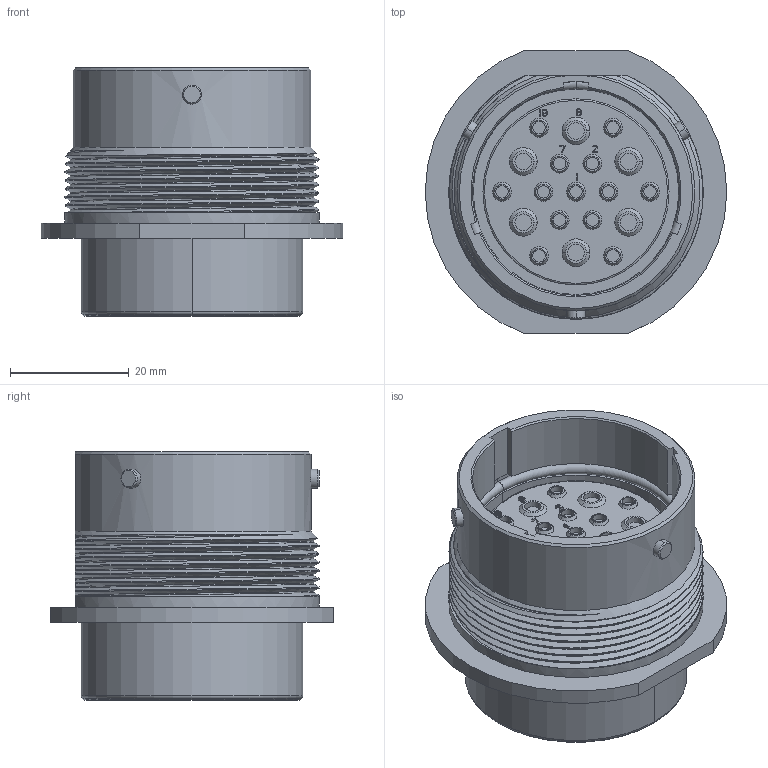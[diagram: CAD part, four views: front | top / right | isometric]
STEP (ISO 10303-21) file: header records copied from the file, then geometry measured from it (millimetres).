
FILE_DESCRIPTION((''),'2;1');
FILE_NAME('C-HD34-24-19PN','2013-03-23T',('workeradm'),('Tyco Electronics Ltd.'),'PRO/ENGINEER BY PARAMETRIC TECHNOLOGY CORPORATION, 2010430','PRO/ENGINEER BY PARAMETRIC TECHNOLOGY CORPORATION, 2010430','');
FILE_SCHEMA(('AUTOMOTIVE_DESIGN { 1 0 10303 214 1 1 1 1 }'));
Length unit declared in the file: millimetre
Products named in the file (1): C-HD34-24-19PN
Bounding box: 50.8 x 47.62 x 41.83 mm (x, y, z)
Volume: 40727.6 mm3; surface area: 13232 mm2
Topology: 1 solids, 1 shells, 553 faces, 1322 edges, 868 vertices
Faces by surface type: plane 290, cylinder 155, cone 53, bspline 31, torus 24
Entity records: 21835 total; most frequent: CARTESIAN_POINT 8549, DIRECTION 2697, ORIENTED_EDGE 2644, EDGE_CURVE 1322, AXIS2_PLACEMENT_3D 947, VERTEX_POINT 868, VECTOR 803, LINE 803
